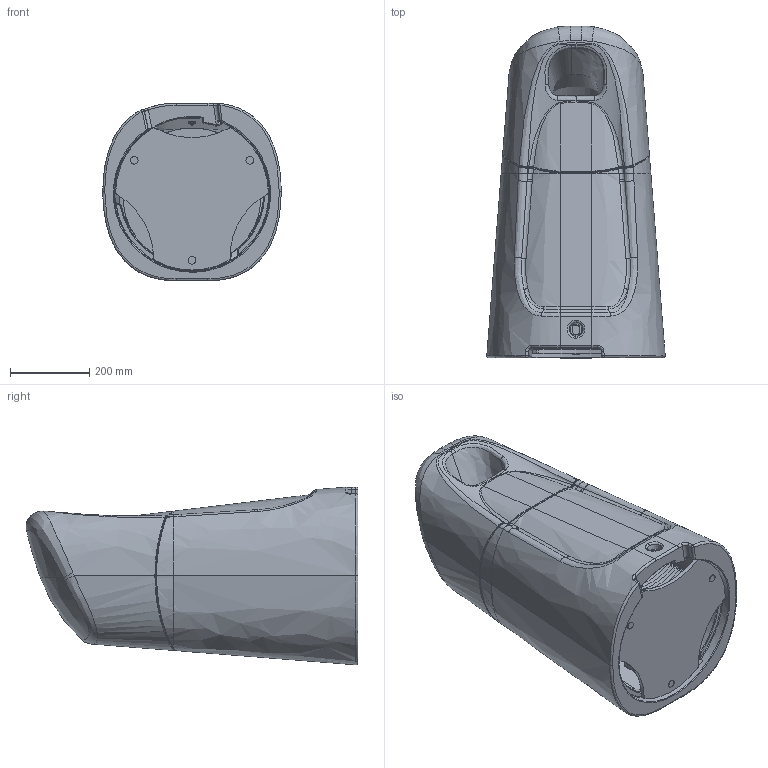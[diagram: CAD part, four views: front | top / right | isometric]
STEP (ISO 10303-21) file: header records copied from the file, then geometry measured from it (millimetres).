
FILE_DESCRIPTION(/* description */ (''),/* implementation_level */ '2;1');
FILE_NAME(/* name */ 'Ryno Safewaste Bin - STEP (Simplified).stp',/* time_stamp */ '2024-07-04T15:00:56+01:00',/* author */ ('Brian.Thangei'),/* organization */ (''),/* preprocessor_version */ 'ST-DEVELOPER v20',/* originating_system */ 'Autodesk Inventor 2024',/* authorisation */ '');
FILE_SCHEMA (('AUTOMOTIVE_DESIGN { 1 0 10303 214 3 1 1 }'));
Products named in the file (1): Ryno Safewaste Bin (Simplified)
Bounding box: 449.15 x 835.44 x 447.31 mm (x, y, z)
Volume: 31797935.6 mm3; surface area: 2848098.5 mm2
Topology: 4 solids, 4 shells, 1191 faces, 2833 edges, 1597 vertices
Faces by surface type: bspline 746, cylinder 260, plane 123, cone 29, torus 27, sphere 6
Full cylindrical faces by diameter (mm): 6 x2, 10 x3, 11.34 x2, 19.22 x3, 40 x1
Entity records: 287463 total; most frequent: CARTESIAN_POINT 264367, ORIENTED_EDGE 5496, DIRECTION 3066, EDGE_CURVE 2748, VERTEX_POINT 1597, B_SPLINE_CURVE_WITH_KNOTS 1367, AXIS2_PLACEMENT_3D 1272, EDGE_LOOP 1239
